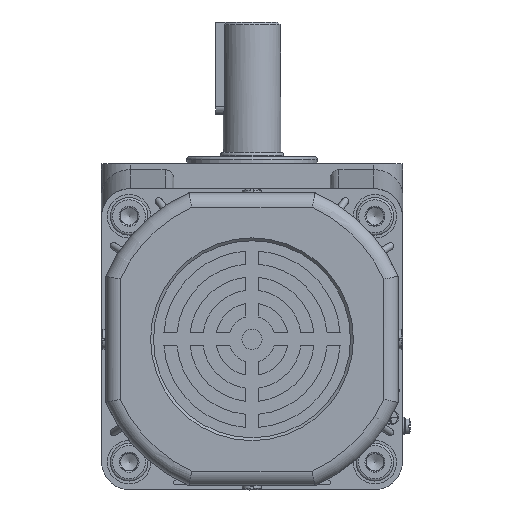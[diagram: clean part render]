
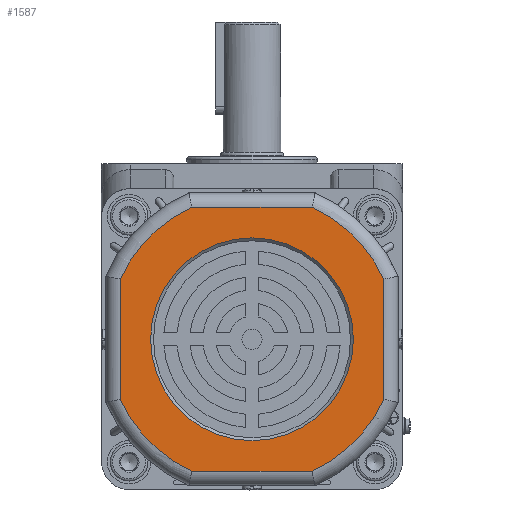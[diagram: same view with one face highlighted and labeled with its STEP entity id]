
A CAD part, left-side view. The second image highlights one B-rep face of the part: STEP entity #1587.
In plain terms, the highlighted planar face has unit normal (-1, 0, 0).
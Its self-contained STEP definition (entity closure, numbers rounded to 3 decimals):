
#764=FACE_BOUND('',#3827,.T.);
#765=FACE_BOUND('',#3828,.T.);
#1587=ADVANCED_FACE('',(#764,#765),#2564,.F.);
#2564=PLANE('',#16159);
#3827=EDGE_LOOP('',(#5095));
#3828=EDGE_LOOP('',(#5096,#5097,#5098,#5099,#5100,#5101,#5102,#5103));
#5095=ORIENTED_EDGE('',*,*,#11070,.T.);
#5096=ORIENTED_EDGE('',*,*,#11071,.T.);
#5097=ORIENTED_EDGE('',*,*,#11072,.T.);
#5098=ORIENTED_EDGE('',*,*,#11073,.T.);
#5099=ORIENTED_EDGE('',*,*,#11074,.T.);
#5100=ORIENTED_EDGE('',*,*,#11075,.T.);
#5101=ORIENTED_EDGE('',*,*,#11076,.T.);
#5102=ORIENTED_EDGE('',*,*,#11077,.T.);
#5103=ORIENTED_EDGE('',*,*,#11078,.T.);
#9569=VERTEX_POINT('',#22416);
#9570=VERTEX_POINT('',#22418);
#9571=VERTEX_POINT('',#22419);
#9572=VERTEX_POINT('',#22421);
#9573=VERTEX_POINT('',#22423);
#9574=VERTEX_POINT('',#22425);
#9575=VERTEX_POINT('',#22427);
#9576=VERTEX_POINT('',#22429);
#9577=VERTEX_POINT('',#22431);
#11070=EDGE_CURVE('',#9569,#9569,#15284,.T.);
#11071=EDGE_CURVE('',#9570,#9571,#13307,.T.);
#11072=EDGE_CURVE('',#9571,#9572,#15285,.T.);
#11073=EDGE_CURVE('',#9572,#9573,#13308,.T.);
#11074=EDGE_CURVE('',#9573,#9574,#15286,.T.);
#11075=EDGE_CURVE('',#9574,#9575,#13309,.T.);
#11076=EDGE_CURVE('',#9575,#9576,#15287,.T.);
#11077=EDGE_CURVE('',#9576,#9577,#13310,.T.);
#11078=EDGE_CURVE('',#9577,#9570,#15288,.T.);
#13307=LINE('',#22417,#14246);
#13308=LINE('',#22422,#14247);
#13309=LINE('',#22426,#14248);
#13310=LINE('',#22430,#14249);
#14246=VECTOR('',#17971,1.);
#14247=VECTOR('',#17974,1.);
#14248=VECTOR('',#17977,1.);
#14249=VECTOR('',#17980,1.);
#15284=CIRCLE('',#16154,35.);
#15285=CIRCLE('',#16155,50.);
#15286=CIRCLE('',#16156,50.);
#15287=CIRCLE('',#16157,50.);
#15288=CIRCLE('',#16158,50.);
#16154=AXIS2_PLACEMENT_3D('',#22415,#17969,#17970);
#16155=AXIS2_PLACEMENT_3D('',#22420,#17972,#17973);
#16156=AXIS2_PLACEMENT_3D('',#22424,#17975,#17976);
#16157=AXIS2_PLACEMENT_3D('',#22428,#17978,#17979);
#16158=AXIS2_PLACEMENT_3D('',#22432,#17981,#17982);
#16159=AXIS2_PLACEMENT_3D('',#22433,#17983,#17984);
#17969=DIRECTION('',(1.,0.,0.));
#17970=DIRECTION('',(0.,-1.,0.));
#17971=DIRECTION('',(0.,-1.,0.));
#17972=DIRECTION('',(-1.,0.,0.));
#17973=DIRECTION('',(0.,0.,1.));
#17974=DIRECTION('',(0.,0.,1.));
#17975=DIRECTION('',(-1.,0.,0.));
#17976=DIRECTION('',(0.,0.,1.));
#17977=DIRECTION('',(0.,1.,0.));
#17978=DIRECTION('',(-1.,0.,0.));
#17979=DIRECTION('',(0.,0.,1.));
#17980=DIRECTION('',(0.,0.,-1.));
#17981=DIRECTION('',(-1.,0.,0.));
#17982=DIRECTION('',(0.,0.,1.));
#17983=DIRECTION('',(1.,0.,0.));
#17984=DIRECTION('',(0.,0.,1.));
#22415=CARTESIAN_POINT('',(-237.8,-120.671,-58.491));
#22416=CARTESIAN_POINT('',(-237.8,-155.671,-58.491));
#22417=CARTESIAN_POINT('',(-237.8,-142.46,-103.991));
#22418=CARTESIAN_POINT('',(-237.8,-99.941,-103.991));
#22419=CARTESIAN_POINT('',(-237.8,-141.402,-103.991));
#22420=CARTESIAN_POINT('',(-237.8,-120.671,-58.491));
#22421=CARTESIAN_POINT('',(-237.8,-166.171,-79.221));
#22422=CARTESIAN_POINT('',(-237.8,-166.171,-36.702));
#22423=CARTESIAN_POINT('',(-237.8,-166.171,-37.76));
#22424=CARTESIAN_POINT('',(-237.8,-120.671,-58.491));
#22425=CARTESIAN_POINT('',(-237.8,-141.402,-12.991));
#22426=CARTESIAN_POINT('',(-237.8,-98.882,-12.991));
#22427=CARTESIAN_POINT('',(-237.8,-99.941,-12.991));
#22428=CARTESIAN_POINT('',(-237.8,-120.671,-58.491));
#22429=CARTESIAN_POINT('',(-237.8,-75.171,-37.76));
#22430=CARTESIAN_POINT('',(-237.8,-75.171,-80.28));
#22431=CARTESIAN_POINT('',(-237.8,-75.171,-79.221));
#22432=CARTESIAN_POINT('',(-237.8,-120.671,-58.491));
#22433=CARTESIAN_POINT('',(-237.8,-120.671,-58.491));
